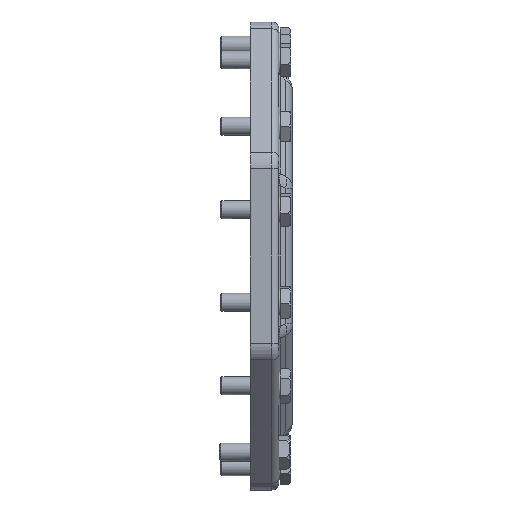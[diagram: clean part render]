
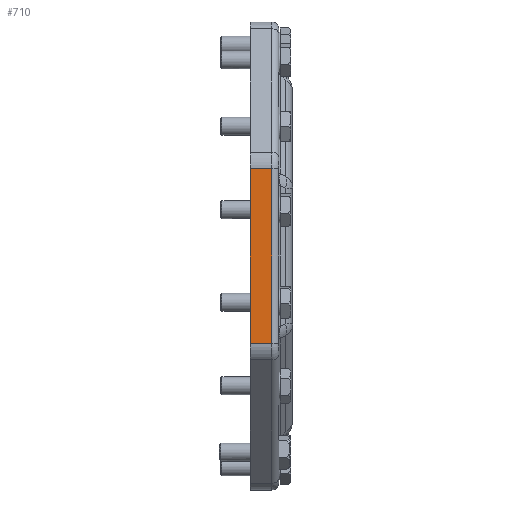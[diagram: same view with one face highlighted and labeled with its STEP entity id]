
A CAD part, front view. The second image highlights one B-rep face of the part: STEP entity #710.
In plain terms, the highlighted planar face has unit normal (0, -1, 0).
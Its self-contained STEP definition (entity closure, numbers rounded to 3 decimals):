
#432=FACE_OUTER_BOUND('',#1715,.T.);
#710=ADVANCED_FACE('',(#432),#1071,.F.);
#1071=PLANE('',#5770);
#1715=EDGE_LOOP('',(#2237,#2238,#2239,#2240));
#2237=ORIENTED_EDGE('',*,*,#4341,.T.);
#2238=ORIENTED_EDGE('',*,*,#4342,.T.);
#2239=ORIENTED_EDGE('',*,*,#4343,.T.);
#2240=ORIENTED_EDGE('',*,*,#4344,.T.);
#3805=VERTEX_POINT('',#8117);
#3806=VERTEX_POINT('',#8118);
#3807=VERTEX_POINT('',#8120);
#3808=VERTEX_POINT('',#8122);
#4341=EDGE_CURVE('',#3805,#3806,#5096,.T.);
#4342=EDGE_CURVE('',#3806,#3807,#5097,.T.);
#4343=EDGE_CURVE('',#3807,#3808,#5098,.T.);
#4344=EDGE_CURVE('',#3808,#3805,#5099,.T.);
#5096=LINE('',#8116,#5436);
#5097=LINE('',#8119,#5437);
#5098=LINE('',#8121,#5438);
#5099=LINE('',#8123,#5439);
#5436=VECTOR('',#6479,1.);
#5437=VECTOR('',#6480,1.);
#5438=VECTOR('',#6481,1.);
#5439=VECTOR('',#6482,1.);
#5770=AXIS2_PLACEMENT_3D('',#8124,#6483,#6484);
#6479=DIRECTION('',(1.,0.,0.));
#6480=DIRECTION('',(0.,0.,1.));
#6481=DIRECTION('',(-1.,0.,0.));
#6482=DIRECTION('',(0.,0.,-1.));
#6483=DIRECTION('',(0.,1.,0.));
#6484=DIRECTION('',(0.,0.,1.));
#8116=CARTESIAN_POINT('',(155.719,-101.,-38.693));
#8117=CARTESIAN_POINT('',(143.339,-101.,-38.693));
#8118=CARTESIAN_POINT('',(152.719,-101.,-38.693));
#8119=CARTESIAN_POINT('',(152.719,-101.,36.693));
#8120=CARTESIAN_POINT('',(152.719,-101.,36.693));
#8121=CARTESIAN_POINT('',(155.719,-101.,36.693));
#8122=CARTESIAN_POINT('',(143.339,-101.,36.693));
#8123=CARTESIAN_POINT('',(143.339,-101.,40.836));
#8124=CARTESIAN_POINT('',(155.719,-101.,40.836));
